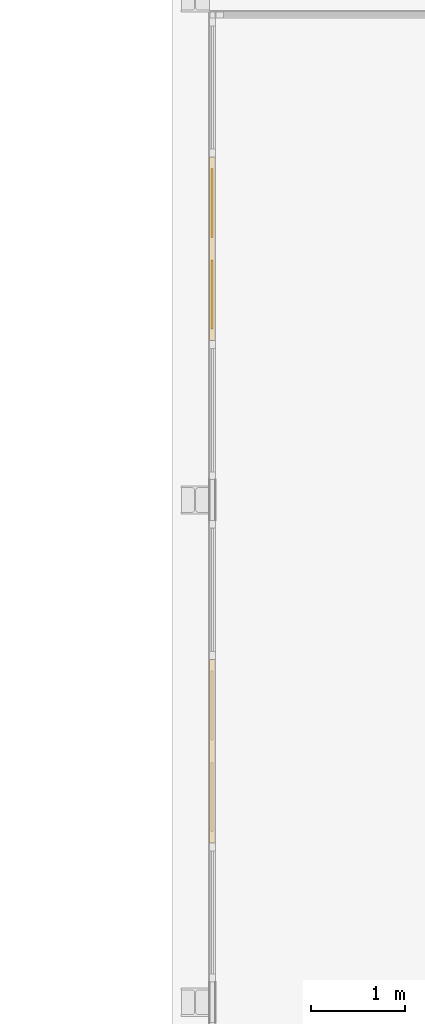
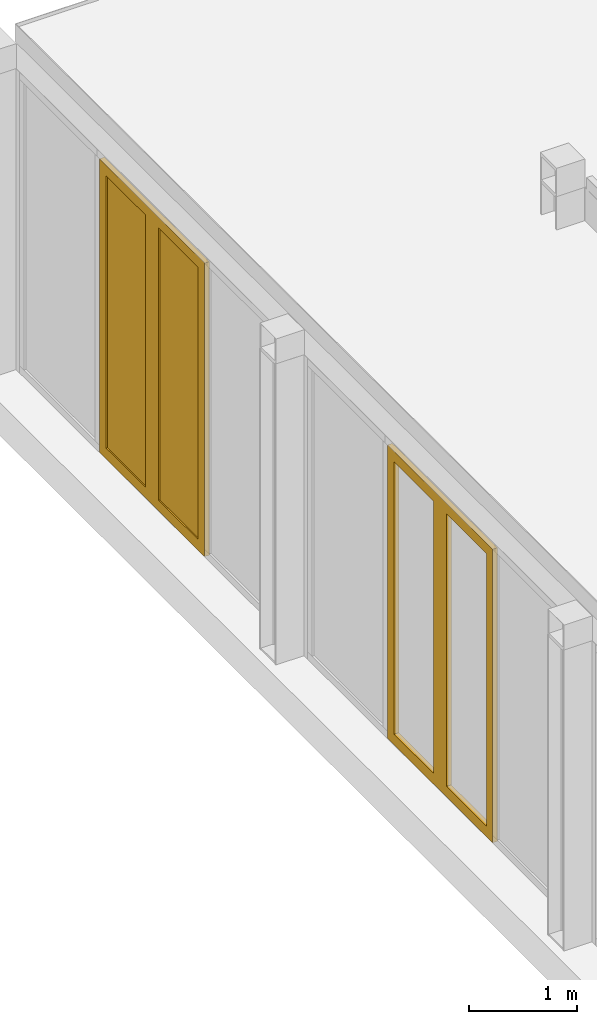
# One storey, part 77 of 99: 2 doors, 2 windows, 2 elements without a shape of their own.
"""IFC2X3 building model written with IfcOpenShell, lengths in millimetres."""

import ifcopenshell
import ifcopenshell.guid

model = None  # the IFC model being written
_history = None  # IfcOwnerHistory: only IFC2X3 demands one
_inside = {}  # id of a spatial element -> (the spatial element, [elements in it])
_under = {}  # id of a project, library or spatial element -> (it, [spatial elements below it])
_declared = {}  # id of a project -> (the project, [libraries it declares])
_typed = {}  # id of a type object -> (the type object, [elements of that type])
_made_of = {}  # id of a material, layer set ... -> (it, [elements and type objects made of it])


def new_model(schema):
    """Start an empty IFC model of exactly this schema.

    Asked for "IFC4X3", IfcOpenShell would pick the latest addendum, in which some entities
    have other attributes; the version numbers below select the first issue.
    IFC2X3 requires an IfcOwnerHistory on every rooted entity: one is made here for all.
    """
    global model, _history
    if schema == "IFC4X3":
        model = ifcopenshell.file(schema_version=(4, 3, 0, 0))
    else:
        model = ifcopenshell.file(schema=schema)
    _inside.clear()
    _under.clear()
    _declared.clear()
    _typed.clear()
    _made_of.clear()
    _history = None
    if model.schema == "IFC2X3":
        org = make("IfcOrganization", Name="unknown")
        user = make(
            "IfcPersonAndOrganization",
            ThePerson=make("IfcPerson", FamilyName="unknown"),
            TheOrganization=org,
        )
        app = make(
            "IfcApplication",
            ApplicationDeveloper=org,
            Version="unknown",
            ApplicationFullName="unknown",
            ApplicationIdentifier="unknown",
        )
        _history = make(
            "IfcOwnerHistory",
            OwningUser=user,
            OwningApplication=app,
            ChangeAction="ADDED",
            CreationDate=0,
        )
    return model


def make(cls, **values):
    """One entity of the class cls with the attributes given. An attribute that is None is left unset."""
    return model.create_entity(
        cls, **{name: value for name, value in values.items() if value is not None}
    )


def entity(cls, *values):
    """Any entity or typed value of the class cls, its attributes in the order of the schema. None: left unset."""
    e = model.create_entity(cls)
    for i, value in enumerate(values):
        if value is not None:
            e[i] = value
    return e


def rooted(cls, **values):
    """An entity with a GlobalId (a new one), such as an element, a storey or a relation."""
    return make(cls, GlobalId=ifcopenshell.guid.new(), OwnerHistory=_history, **values)


def si_unit(unit_type, name, prefix=None):
    """IfcSIUnit, for example si_unit("LENGTHUNIT", "METRE", prefix="MILLI")."""
    return make("IfcSIUnit", UnitType=unit_type, Prefix=prefix, Name=name)


def converted_unit(unit_type, name, factor, base, dimensions=None, offset=None):
    """IfcConversionBasedUnit, such as the inch: factor (a typed value) times the base unit."""
    return make(
        "IfcConversionBasedUnit"
        if offset is None
        else "IfcConversionBasedUnitWithOffset",
        ConversionOffset=offset,
        Dimensions=None
        if dimensions is None
        else entity("IfcDimensionalExponents", *dimensions),
        UnitType=unit_type,
        Name=name,
        ConversionFactor=make(
            "IfcMeasureWithUnit", ValueComponent=factor, UnitComponent=base
        ),
    )


def derived_unit(unit_type, elements):
    """IfcDerivedUnit: a product of units, each with its exponent."""
    return make(
        "IfcDerivedUnit",
        Elements=[
            make("IfcDerivedUnitElement", Unit=unit, Exponent=power)
            for unit, power in elements
        ],
        UnitType=unit_type,
    )


def money_unit(currency):
    """IfcMonetaryUnit."""
    return make("IfcMonetaryUnit", Currency=currency)


def assignment(units):
    """IfcUnitAssignment: the units of a project."""
    return None if units is None else make("IfcUnitAssignment", Units=units)


def point(xyz):
    """IfcCartesianPoint."""
    return None if xyz is None else make("IfcCartesianPoint", Coordinates=xyz)


def direction(xyz):
    """IfcDirection."""
    return None if xyz is None else make("IfcDirection", DirectionRatios=xyz)


def frame(location, z_axis=None, x_axis=None):
    """IfcAxis2Placement3D, a coordinate frame: its origin and axes. An axis left out is left unset."""
    return make(
        "IfcAxis2Placement3D",
        Location=point(location),
        Axis=direction(z_axis),
        RefDirection=direction(x_axis),
    )


def origin_with_axes():
    """The frame at (0, 0, 0) with the z axis (0, 0, 1) and the x axis (1, 0, 0) written out."""
    return frame((0.0, 0.0, 0.0), z_axis=(0.0, 0.0, 1.0), x_axis=(1.0, 0.0, 0.0))


def place(relative_to, where):
    """IfcLocalPlacement: puts the frame where relative to a parent placement (None: the world)."""
    return make(
        "IfcLocalPlacement", PlacementRelTo=relative_to, RelativePlacement=where
    )


def context(
    kind, dimensions, precision=None, world=None, true_north=None, identifier=None
):
    """IfcGeometricRepresentationContext, for example the 3D "Model" context."""
    return make(
        "IfcGeometricRepresentationContext",
        ContextIdentifier=identifier,
        ContextType=kind,
        CoordinateSpaceDimension=dimensions,
        Precision=precision,
        WorldCoordinateSystem=world,
        TrueNorth=true_north,
    )


def subcontext(parent, identifier, kind, view, scale=None):
    """IfcGeometricRepresentationSubContext, for example "Body" below "Model"."""
    return make(
        "IfcGeometricRepresentationSubContext",
        ContextIdentifier=identifier,
        ContextType=kind,
        ParentContext=parent,
        TargetScale=scale,
        TargetView=view,
    )


def project(units=None, contexts=None):
    """IfcProject with its units and contexts."""
    return rooted(
        "IfcProject",
        Name="project",
        RepresentationContexts=contexts,
        UnitsInContext=assignment(units),
    )


def spatial(cls, under=None, at=None, **own):
    """A site, building, storey or space (cls), placed at a placement, below another one or the project."""
    s = rooted(cls, ObjectPlacement=at, **own)
    if under is not None:
        _under.setdefault(under.id(), (under, []))[1].append(s)
    return s


def faces_of(points, faces, orient=None, outer=None):
    """IfcFace entities. A face is a list of loops; a loop is a list of indices into points, from 0.

    orient and outer hold one flag for each loop. By default every Orientation is true, the
    first loop of a face is its IfcFaceOuterBound and the others are IfcFaceBound.
    """
    made = []
    for i, loops in enumerate(faces):
        bounds = []
        for j, loop in enumerate(loops):
            is_outer = j == 0 if outer is None else outer[i][j]
            bounds.append(
                make(
                    "IfcFaceOuterBound" if is_outer else "IfcFaceBound",
                    Bound=make("IfcPolyLoop", Polygon=[points[k] for k in loop]),
                    Orientation=True if orient is None else orient[i][j],
                )
            )
        made.append(make("IfcFace", Bounds=bounds))
    return made


def faceted_brep(points, faces, orient=None, outer=None, voids=None):
    """IfcFacetedBrep: a solid bounded by flat faces; with voids (closed shells), ...WithVoids."""
    shared = [point(p) for p in points]
    hull = make("IfcClosedShell", CfsFaces=faces_of(shared, faces, orient, outer))
    if voids is None:
        return make("IfcFacetedBrep", Outer=hull)
    return make(
        "IfcFacetedBrepWithVoids",
        Outer=hull,
        Voids=[
            make(cls, CfsFaces=faces_of(shared, fs, o, b)) for cls, fs, o, b in voids
        ],
    )


def shape(context_of_items, identifier, shape_type, items):
    """IfcShapeRepresentation: the items that make up one representation, for example the "Body"."""
    return make(
        "IfcShapeRepresentation",
        ContextOfItems=context_of_items,
        RepresentationIdentifier=identifier,
        RepresentationType=shape_type,
        Items=items,
    )


def source(mapping_origin, context_of_items, identifier, shape_type, items):
    """IfcRepresentationMap: a shape defined once, which mapped items show again and again."""
    return make(
        "IfcRepresentationMap",
        MappingOrigin=mapping_origin,
        MappedRepresentation=shape(context_of_items, identifier, shape_type, items),
    )


def transform(
    local_origin,
    x_axis=None,
    y_axis=None,
    z_axis=None,
    scale=None,
    scale2=None,
    scale3=None,
    uniform=True,
):
    """IfcCartesianTransformationOperator3D, or its non-uniform kind. x_axis, y_axis, z_axis: its Axis1, 2, 3."""
    if uniform:
        return make(
            "IfcCartesianTransformationOperator3D",
            Axis1=direction(x_axis),
            Axis2=direction(y_axis),
            LocalOrigin=point(local_origin),
            Scale=scale,
            Axis3=direction(z_axis),
        )
    return make(
        "IfcCartesianTransformationOperator3DnonUniform",
        Axis1=direction(x_axis),
        Axis2=direction(y_axis),
        LocalOrigin=point(local_origin),
        Scale=scale,
        Axis3=direction(z_axis),
        Scale2=scale2,
        Scale3=scale3,
    )


def mapped(mapping_source, mapping_target):
    """IfcMappedItem: shows the shape of a source again, moved by a transform."""
    return make(
        "IfcMappedItem", MappingSource=mapping_source, MappingTarget=mapping_target
    )


def material(Name=None, Category=None):
    """IfcMaterial."""
    return make("IfcMaterial", Name=Name, Category=Category)


def made_of(thing, what):
    """Note that an element or type object is made of a material, layer set ...; save() writes the relation."""
    if what is not None:
        _made_of.setdefault(what.id(), (what, []))[1].append(thing)
    return thing


def type_object(cls, material=None, **own):
    """A type object (cls), such as IfcWallType, which elements share."""
    return made_of(rooted(cls, **own), material)


def type_shapes(of_type, sources):
    """Give a type object the sources (RepresentationMaps) that its elements show as mapped items."""
    of_type.RepresentationMaps = sources


def element(
    cls,
    number,
    at=None,
    inside=None,
    cuts=None,
    type_object=None,
    material=None,
    context=None,
    identifier="Body",
    shape_type=None,
    held_by="IfcProductDefinitionShape",
    body=None,
    shapes=None,
    **own,
):
    """One element of the class cls, such as IfcWall. Its Tag is "e" and its number.

    at: its placement. inside: the storey or other place that contains it. cuts: it is an
    opening in that element (IfcRelVoidsElement). A single representation is given by context,
    identifier, shape_type and body (its items); several are given by shapes. held_by: the class
    of the entity that holds the representations. save() writes the other relations.
    """
    e = rooted(cls, Tag="e%d" % number, ObjectPlacement=at, **own)
    if body is not None:
        shapes = [shape(context, identifier, shape_type, body)]
    if shapes is not None:
        e.Representation = make(held_by, Representations=shapes)
    if inside is not None:
        _inside.setdefault(inside.id(), (inside, []))[1].append(e)
    if cuts is not None:
        rooted(
            "IfcRelVoidsElement", RelatingBuildingElement=cuts, RelatedOpeningElement=e
        )
    if type_object is not None:
        _typed.setdefault(type_object.id(), (type_object, []))[1].append(e)
    return made_of(e, material)


def aggregate(whole, parts):
    """IfcRelAggregates: a whole, such as a stair, and the parts it consists of."""
    return rooted("IfcRelAggregates", RelatingObject=whole, RelatedObjects=parts)


def save(model, path):
    """Write the relations noted so far, then the file.

    IfcRelAggregates (storeys below a building ...), IfcRelContainedInSpatialStructure (elements
    in a storey), IfcRelDefinesByType, IfcRelAssociatesMaterial and IfcRelDeclares: one each for
    every whole, place, type object, material and project.
    """
    for whole, parts in _under.values():
        aggregate(whole, parts)
    for where, things in _inside.values():
        rooted(
            "IfcRelContainedInSpatialStructure",
            RelatedElements=things,
            RelatingStructure=where,
        )
    for kind, things in _typed.values():
        rooted("IfcRelDefinesByType", RelatedObjects=things, RelatingType=kind)
    for what, things in _made_of.values():
        rooted("IfcRelAssociatesMaterial", RelatedObjects=things, RelatingMaterial=what)
    for by, libraries in _declared.values():
        rooted("IfcRelDeclares", RelatingContext=by, RelatedDefinitions=libraries)
    model.write(path)


model = new_model("IFC2X3")

# Units and contexts
model_context = context("Model", 3, precision=0.01, world=origin_with_axes(), true_north=direction((0.0, 1.0)))
body_context = subcontext(model_context, "Body", "Model", "MODEL_VIEW")
ifc_project = project(units=[si_unit("LENGTHUNIT", "METRE", prefix="MILLI"), si_unit("AREAUNIT", "SQUARE_METRE"), si_unit("VOLUMEUNIT", "CUBIC_METRE"), converted_unit("PLANEANGLEUNIT", "DEGREE", entity("IfcPlaneAngleMeasure", 0.0174532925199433), si_unit("PLANEANGLEUNIT", "RADIAN"), dimensions=[0, 0, 0, 0, 0, 0, 0]), money_unit("EUR"), converted_unit("TIMEUNIT", "Year", entity("IfcTimeMeasure", 31557600.0), si_unit("TIMEUNIT", "SECOND"), dimensions=[0, 0, 1, 0, 0, 0, 0]), si_unit("MASSUNIT", "GRAM", prefix="KILO"), si_unit("THERMODYNAMICTEMPERATUREUNIT", "DEGREE_CELSIUS"), si_unit("LUMINOUSINTENSITYUNIT", "LUMEN"), si_unit("ENERGYUNIT", "JOULE", prefix="MEGA"), derived_unit("THERMALCONDUCTANCEUNIT", [(si_unit("POWERUNIT", "WATT"), 1), (si_unit("LENGTHUNIT", "METRE"), -1), (si_unit("THERMODYNAMICTEMPERATUREUNIT", "KELVIN"), -1)]), derived_unit("SPECIFICHEATCAPACITYUNIT", [(si_unit("ENERGYUNIT", "JOULE"), 1), (si_unit("MASSUNIT", "GRAM", prefix="KILO"), -1), (si_unit("THERMODYNAMICTEMPERATUREUNIT", "KELVIN"), -1)]), derived_unit("MASSDENSITYUNIT", [(si_unit("MASSUNIT", "GRAM", prefix="KILO"), 1), (si_unit("VOLUMEUNIT", "CUBIC_METRE"), -1)])], contexts=[model_context])

# Site, building, storey
site_placement = place(None, origin_with_axes())
site = spatial("IfcSite", under=ifc_project, at=site_placement, Name="Site", CompositionType="ELEMENT")
building_placement = place(site_placement, origin_with_axes())
building = spatial("IfcBuilding", under=site, at=building_placement, Name="Naam gebouw", CompositionType="ELEMENT")
storey_placement = place(building_placement, frame((0.0, 0.0, 7650.0), z_axis=(0.0, 0.0, 1.0), x_axis=(1.0, 0.0, 0.0)))
storey = spatial("IfcBuildingStorey", under=building, at=storey_placement, Name="2e verdieping N", CompositionType="ELEMENT", Elevation=7650.0)

# Windows
ifc_material_1 = material(Name="Glass")
window_style = type_object("IfcWindowStyle", Name="WI_subvak:glas 2", ConstructionType="NOTDEFINED", OperationType="NOTDEFINED", ParameterTakesPrecedence=False, Sizeable=False)
shared_shape_1 = source(origin_with_axes(), body_context, "Body", "Brep", [
    faceted_brep([(366.4999999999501, 12.0, 0.0), (-366.4999999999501, 12.0, 0.0), (-366.4999999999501, 12.0, 3075.99999999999), (366.4999999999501, 12.0, 3075.99999999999), (366.4999999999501, 0.0, 0.0), (-366.4999999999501, 0.0, 0.0), (-366.4999999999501, 0.0, 3075.99999999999), (366.4999999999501, 0.0, 3075.99999999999)], [[[0, 1, 2, 3]], [[0, 4, 5, 1]], [[1, 5, 6, 2]], [[3, 2, 6, 7]], [[4, 0, 3, 7]], [[5, 4, 7, 6]]]),
    faceted_brep([(366.4999999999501, 0.0, 0.0), (-366.4999999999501, 0.0, 0.0), (-366.4999999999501, 0.0, 3076.00000000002), (366.4999999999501, 0.0, 3076.00000000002), (366.4999999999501, -12.0, 0.0), (-366.4999999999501, -12.0, 0.0), (-366.4999999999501, -12.0, 3076.00000000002), (366.4999999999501, -12.0, 3076.00000000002)], [[[0, 1, 2, 3]], [[0, 4, 5, 1]], [[1, 5, 6, 2]], [[3, 2, 6, 7]], [[4, 0, 3, 7]], [[5, 4, 7, 6]]]),
])
type_shapes(window_style, [shared_shape_1])
for number, where, z_axis, x_axis, name in (
    (1, (14469.50000003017, 47097.41242631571, -3379.999999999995), (0.0, 0.0, 1.0), (0.0, 1.0, 0.0), "WI_subvak:glas 2"),
    (2, (14469.50000003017, 46124.41242625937, -3379.999999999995), (0.0, 0.0, 1.0), (0.0, 1.0, 0.0), "WI_subvak:glas 2"),
):
    element("IfcWindow", number, at=place(storey_placement, frame(where, z_axis=z_axis, x_axis=x_axis)), inside=storey, type_object=window_style, material=ifc_material_1, Name=name, ObjectType="WINDOW", context=body_context, shape_type="MappedRepresentation", body=[
        mapped(shared_shape_1, transform((0.0, 0.0, 0.0))),
    ])

# Curtain wall, door
curtain_wall_type = type_object("IfcCurtainWallType", Name="Curtain Wall:21_CW_alu kozijn 084x065", PredefinedType="NOTDEFINED")
curtain_wall_1_placement = place(storey_placement, frame((0.0, 0.0, -7650.0), z_axis=(0.0, 0.0, 1.0), x_axis=(1.0, 0.0, 0.0)))
curtain_wall_1 = element("IfcCurtainWall", 3, at=curtain_wall_1_placement, inside=storey, type_object=curtain_wall_type, Name="Curtain Wall:21_CW_alu kozijn 084x065", ObjectType="Curtain Wall:21_CW_alu kozijn 084x065")
ifc_material_2 = material(Name="RAL 7024 - Grafietgrijs")
door_style = type_object("IfcDoorStyle", Name="31_DO_stolpdeur_1:0std", ConstructionType="NOTDEFINED", OperationType="NOTDEFINED", ParameterTakesPrecedence=False, Sizeable=False)
shared_shape_2 = source(origin_with_axes(), body_context, "Body", "Brep", [
    faceted_brep([(0.0, -20.0, 0.0), (0.0, -20.0, 3316.0), (0.0, 5.000000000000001, 3316.0), (0.0, 5.000000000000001, 0.0), (972.9999860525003, -20.0, 0.0), (972.9999860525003, -20.0, 3316.0), (852.9999976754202, -20.0, 3196.00001162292), (852.9999976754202, -20.0, 119.9999883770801), (119.99998837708, -20.0, 119.9999883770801), (119.99998837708, -20.0, 3196.00001162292), (972.9999860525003, 5.000000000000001, 3316.0), (972.9999860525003, 5.000000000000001, 0.0), (852.9999976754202, 5.000000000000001, 3196.00001162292), (119.99998837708, 5.000000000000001, 3196.00001162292), (119.99998837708, 5.000000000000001, 119.9999883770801), (852.9999976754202, 5.000000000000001, 119.9999883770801)], [[[0, 1, 2, 3]], [[0, 4, 5, 1], [6, 7, 8, 9]], [[1, 5, 10, 2]], [[3, 2, 10, 11], [12, 13, 14, 15]], [[4, 0, 3, 11]], [[5, 4, 11, 10]], [[7, 6, 12, 15]], [[8, 7, 15, 14]], [[9, 8, 14, 13]], [[6, 9, 13, 12]]]),
    faceted_brep([(-972.9999999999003, -20.0, 0.0), (-972.9999999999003, -20.0, 3316.0), (-972.9999999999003, 5.000000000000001, 3316.0), (-972.9999999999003, 5.000000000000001, 0.0), (-1.394740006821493e-05, -20.0, 0.0), (-1.394740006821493e-05, -20.0, 3316.0), (-120.0000023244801, -20.0, 3196.00001162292), (-120.0000023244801, -20.0, 119.9999883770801), (-853.0000116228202, -20.0, 119.9999883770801), (-853.0000116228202, -20.0, 3196.00001162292), (-1.394740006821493e-05, 5.000000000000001, 3316.0), (-1.394740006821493e-05, 5.000000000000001, 0.0), (-120.0000023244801, 5.000000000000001, 3196.00001162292), (-853.0000116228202, 5.000000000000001, 3196.00001162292), (-853.0000116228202, 5.000000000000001, 119.9999883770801), (-120.0000023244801, 5.000000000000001, 119.9999883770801)], [[[0, 1, 2, 3]], [[0, 4, 5, 1], [6, 7, 8, 9]], [[1, 5, 10, 2]], [[3, 2, 10, 11], [12, 13, 14, 15]], [[4, 0, 3, 11]], [[5, 4, 11, 10]], [[7, 6, 12, 15]], [[8, 7, 15, 14]], [[9, 8, 14, 13]], [[6, 9, 13, 12]]]),
    faceted_brep([(-972.9999999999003, 5.0, 0.0), (-972.9999999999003, 5.0, 3316.0), (-972.9999999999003, 30.0, 3316.0), (-972.9999999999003, 30.0, 0.0), (-1.394740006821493e-05, 5.0, 0.0), (-1.394740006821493e-05, 5.0, 3316.0), (-120.0000023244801, 5.0, 3196.00001162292), (-120.0000023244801, 5.0, 119.9999883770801), (-853.0000116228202, 5.0, 119.9999883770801), (-853.0000116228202, 5.0, 3196.00001162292), (-1.394740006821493e-05, 30.0, 3316.0), (-1.394740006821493e-05, 30.0, 0.0), (-120.0000023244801, 30.0, 3196.00001162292), (-853.0000116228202, 30.0, 3196.00001162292), (-853.0000116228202, 30.0, 119.9999883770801), (-120.0000023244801, 30.0, 119.9999883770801)], [[[0, 1, 2, 3]], [[0, 4, 5, 1], [6, 7, 8, 9]], [[1, 5, 10, 2]], [[3, 2, 10, 11], [12, 13, 14, 15]], [[4, 0, 3, 11]], [[5, 4, 11, 10]], [[7, 6, 12, 15]], [[8, 7, 15, 14]], [[9, 8, 14, 13]], [[6, 9, 13, 12]]]),
    faceted_brep([(0.0, 5.0, 0.0), (0.0, 5.0, 3316.0), (0.0, 30.0, 3316.0), (0.0, 30.0, 0.0), (972.9999860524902, 5.0, 0.0), (972.9999860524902, 5.0, 3316.0), (852.9999976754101, 5.0, 3196.00001162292), (852.9999976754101, 5.0, 119.9999883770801), (119.99998837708, 5.0, 119.9999883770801), (119.99998837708, 5.0, 3196.00001162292), (972.9999860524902, 30.0, 3316.0), (972.9999860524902, 30.0, 0.0), (852.9999976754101, 30.0, 3196.00001162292), (119.99998837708, 30.0, 3196.00001162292), (119.99998837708, 30.0, 119.9999883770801), (852.9999976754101, 30.0, 119.9999883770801)], [[[0, 1, 2, 3]], [[0, 4, 5, 1], [6, 7, 8, 9]], [[1, 5, 10, 2]], [[3, 2, 10, 11], [12, 13, 14, 15]], [[4, 0, 3, 11]], [[5, 4, 11, 10]], [[7, 6, 12, 15]], [[8, 7, 15, 14]], [[9, 8, 14, 13]], [[6, 9, 13, 12]]]),
])
type_shapes(door_style, [shared_shape_2])
door_1_placement = place(curtain_wall_1_placement, frame((14474.50000006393, 41280.91242630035, 4150.0), z_axis=(0.0, 0.0, 1.0), x_axis=(0.0, 1.0, 0.0)))
door_1 = element("IfcDoor", 4, at=door_1_placement, type_object=door_style, material=ifc_material_2, Name="31_DO_stolpdeur_1:0std", ObjectType="DOOR", context=body_context, shape_type="MappedRepresentation", body=[
    mapped(shared_shape_2, transform((0.0, 0.0, 0.0))),
])
aggregate(curtain_wall_1, [door_1])

curtain_wall_2_placement = place(storey_placement, frame((0.0, 0.0, -7650.0), z_axis=(0.0, 0.0, 1.0), x_axis=(1.0, 0.0, 0.0)))
curtain_wall_2 = element("IfcCurtainWall", 5, at=curtain_wall_2_placement, inside=storey, type_object=curtain_wall_type, Name="Curtain Wall:21_CW_alu kozijn 084x065", ObjectType="Curtain Wall:21_CW_alu kozijn 084x065")
door_2_placement = place(curtain_wall_2_placement, frame((14474.50000006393, 46610.91242631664, 4150.0), z_axis=(0.0, 0.0, 1.0), x_axis=(0.0, 1.0, 0.0)))
door_2 = element("IfcDoor", 6, at=door_2_placement, type_object=door_style, material=ifc_material_2, Name="31_DO_stolpdeur_1:0std", ObjectType="DOOR", context=body_context, shape_type="MappedRepresentation", body=[
    mapped(shared_shape_2, transform((0.0, 0.0, 0.0))),
])
aggregate(curtain_wall_2, [door_2])

save(model, "model.ifc")
